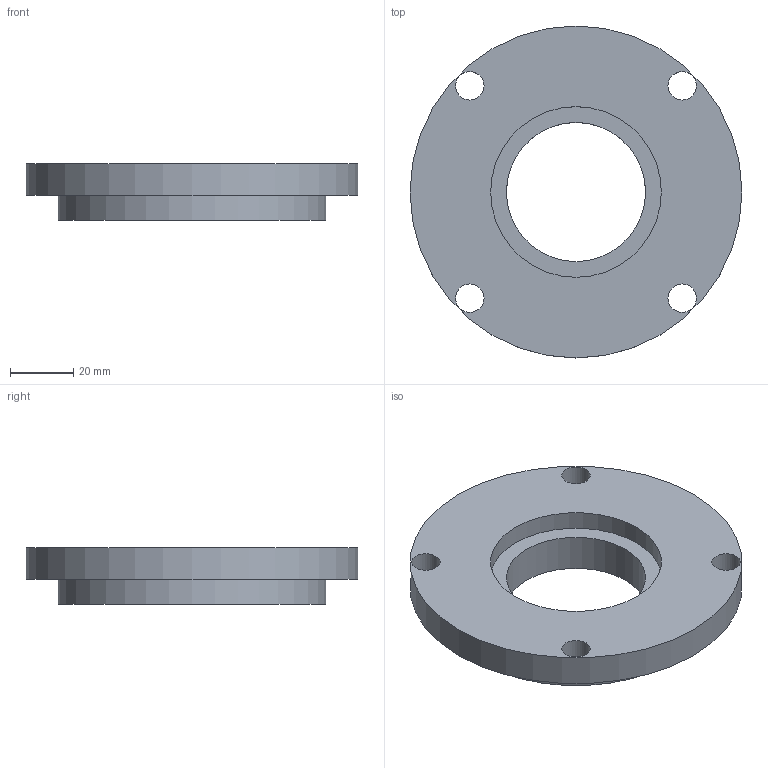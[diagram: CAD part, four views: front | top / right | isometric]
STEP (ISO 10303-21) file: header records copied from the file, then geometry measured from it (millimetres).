
FILE_DESCRIPTION(('Open CASCADE Model'),'2;1');
FILE_NAME('Open CASCADE Shape Model','2026-09-15T22:58:05',('Author'),( 'Open CASCADE'),'Open CASCADE STEP processor 7.9','build123d', 'Unknown');
FILE_SCHEMA(('AUTOMOTIVE_DESIGN { 1 0 10303 214 1 1 1 1 }'));
Length unit declared in the file: millimetre
Products named in the file (1): COMPOUND
Bounding box: 105 x 105 x 18 mm (x, y, z)
Volume: 97027.5 mm3; surface area: 23000.5 mm2
Topology: 1 solids, 1 shells, 12 faces, 24 edges, 16 vertices
Faces by surface type: cylinder 8, plane 4
Full cylindrical faces by diameter (mm): 9 x4, 44 x1, 54 x1, 84.6 x1, 105 x1
Entity records: 666 total; most frequent: DIRECTION 114, CARTESIAN_POINT 101, ORIENTED_EDGE 48, PCURVE 48, DEFINITIONAL_REPRESENTATION 48, LINE 40, VECTOR 40, CIRCLE 32
